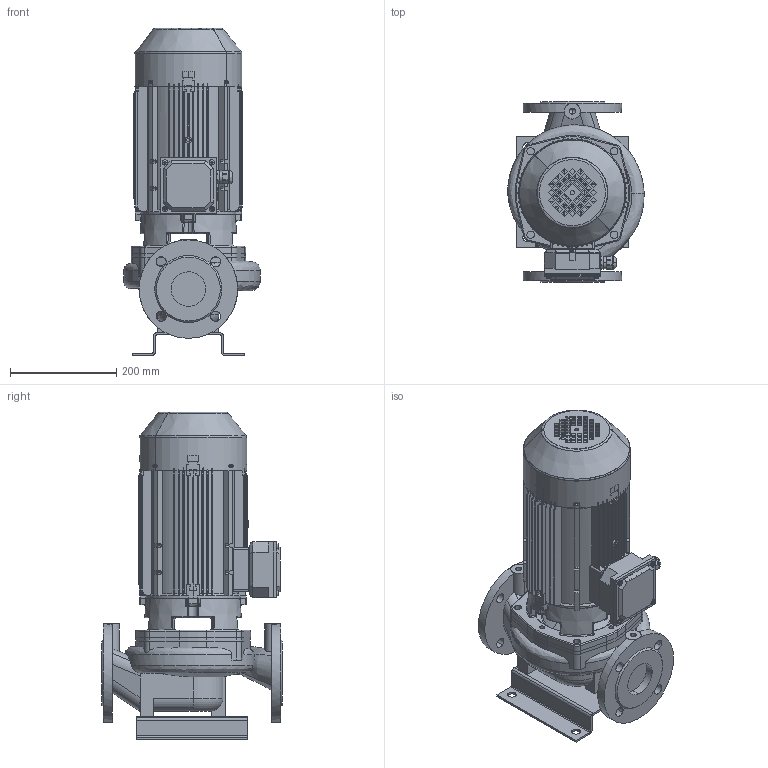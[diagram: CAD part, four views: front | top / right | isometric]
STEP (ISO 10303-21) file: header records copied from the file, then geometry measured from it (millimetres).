
FILE_DESCRIPTION(('STEP AP214'),'1');
FILE_NAME('export.stp','2018-05-29T07:01:54',(' '),(' '),'Spatial InterOp 3D',' ',' ');
FILE_SCHEMA(('AUTOMOTIVE_DESIGN { 1 0 10303 214 1 1 1 1 }'));
Length unit declared in the file: millimetre
Products named in the file (20): 160027; 160005; V_MKP100-1_F19; 160141; 160137; 160138; 160139; 160140; Koura_Ale_M5; Plug_Blind_M20; Sealing_Plug_M20; DIN_7985-M5X8; DIN_7985-M5X12; 160059___; 160060___; 160136; W_L65B2300_KP100; V_TLL65AB80A1102; V_PPL65AB; V_JALKA35973
Assembly tree (22 placements, depth 4):
  W_L65B2300_KP100
    V_MKP100-1_F19
      160027
        160005
      160141
        160137
        160138
        160139
        160140
        Koura_Ale_M5
        Plug_Blind_M20
        Sealing_Plug_M20
        DIN_7985-M5X8
        DIN_7985-M5X12  x4
      160059___
      160060___
      160136
    V_TLL65AB80A1102
    V_PPL65AB
    V_JALKA35973
Bounding box: 256.43 x 340 x 615 mm (x, y, z)
Volume: 7298165.9 mm3; surface area: 1677193.5 mm2
Topology: 20 solids, 20 shells, 2456 faces, 6582 edges, 4175 vertices
Faces by surface type: plane 1054, cylinder 758, bspline 242, torus 240, cone 147, sphere 15
Entity records: 95747 total; most frequent: CARTESIAN_POINT 33083, ORIENTED_EDGE 12784, DIRECTION 11722, EDGE_CURVE 6392, AXIS2_PLACEMENT_3D 4373, VERTEX_POINT 4079, LINE 2976, VECTOR 2976
